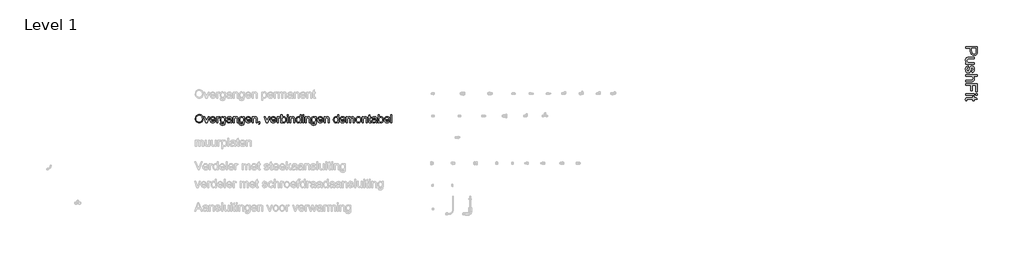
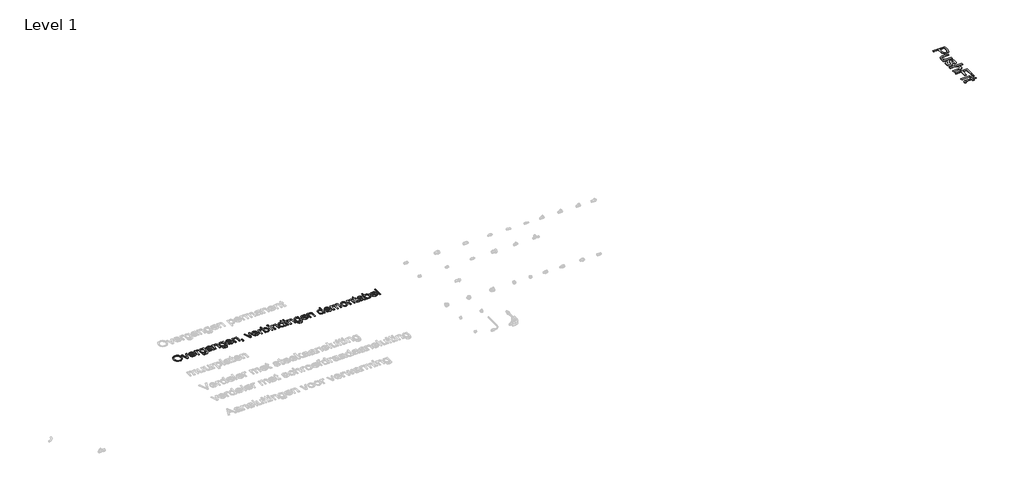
# One storey, part 9 of 9: 2 proxies.
"""IFC4 building model written with IfcOpenShell, lengths in millimetres."""

from ifc_helpers import new_model, si_unit, origin, origin_with_axes, place, context, project, spatial, polyline, outline, extrude, element, save

model = new_model("IFC4")

# Units and contexts
model_context = context("Model", 3, world=origin())
ifc_project = project(units=[si_unit("LENGTHUNIT", "METRE", prefix="MILLI")], contexts=[model_context])

# Site, building, storey
site = spatial("IfcSite", under=ifc_project)
building = spatial("IfcBuilding", under=site)
storey = spatial("IfcBuildingStorey", under=building, Name="Level 1", Elevation=0.0)

# Proxies
placement = place(None, origin())
element("IfcBuildingElementProxy", 1, Name="medium", ObjectType="medium", at=placement, inside=storey, context=model_context, shape_type="SweptSolid", body=[
    extrude(outline(polyline([(16543.598818, 6468.4931818), (16744.5114383, 6468.4931818), (16744.5114383, 6394.0338659), (16742.5984519, 6364.0146951), (16733.2051983, 6339.6118561), (16724.8788025, 6330.7397687), (16713.781029, 6323.7929303), (16700.6905613, 6319.30477), (16686.386083, 6317.8087165), (16662.7067453, 6321.8492871), (16642.9760076, 6333.9709989), (16635.2075661, 6343.678485), (16629.6586794, 6356.6386611), (16625.21957, 6392.3170833), (16625.21957, 6443.3791042), (16543.598818, 6443.3791042), (16543.598818, 6468.4931818)]), holes=[polyline([(16650.3336475, 6443.3791042), (16650.3336475, 6390.8455553), (16652.6390414, 6368.5764319), (16659.5552229, 6353.8611521), (16670.6529964, 6345.6573836), (16685.5031663, 6342.9227941), (16696.7848808, 6344.5353435), (16706.3007617, 6349.3729917), (16713.4621979, 6356.8348649), (16717.6805781, 6366.320089), (16719.3973607, 6391.4341665), (16719.3973607, 6443.3791042), (16650.3336475, 6443.3791042)])]), origin_with_axes(), (0.0, 0.0, 1.0), 5.0),
    extrude(outline(polyline([(16543.598818, 6192.2383288), (16568.9581502, 6192.2383288), (16556.4900162, 6201.3250141), (16547.5842063, 6211.9077529), (16542.2407203, 6223.986545), (16540.4595583, 6237.5613907), (16545.4627534, 6261.1794147), (16558.0197922, 6277.4643244), (16576.5119938, 6284.9445916), (16599.8602378, 6286.4161196), (16691.1440235, 6286.4161196), (16691.1440235, 6261.3020421), (16611.6815126, 6261.3020421), (16586.0769257, 6259.7814632), (16577.535932, 6256.1210373), (16571.0428148, 6249.8486493), (16565.5736358, 6231.1357185), (16571.1654422, 6210.1664447), (16577.768924, 6201.8093921), (16586.3957568, 6196.3095563), (16614.3793139, 6192.2383288), (16691.1440235, 6192.2383288), (16691.1440235, 6167.1242513), (16543.598818, 6167.1242513), (16543.598818, 6192.2383288)])), origin_with_axes(), (0.0, 0.0, 1.0), 5.0),
    extrude(outline(polyline([(16587.5484537, 6142.0101738), (16590.6877134, 6116.8960962), (16579.9455591, 6112.9352334), (16572.0483589, 6105.2710252), (16567.1923166, 6093.8544206), (16565.5736358, 6078.6363687), (16567.0574265, 6063.6022579), (16571.5087987, 6053.0317819), (16577.9589963, 6046.777788), (16585.4392636, 6044.6931233), (16591.8404103, 6046.7900507), (16596.7209781, 6053.0808328), (16603.8824143, 6078.9306743), (16616.1696729, 6116.7489434), (16622.3439591, 6126.3200067), (16630.5170707, 6133.2545823), (16650.7751059, 6138.8709141), (16669.4880367, 6134.3582283), (16683.7863836, 6122.0464442), (16691.2175999, 6106.0803656), (16694.2832832, 6084.4734297), (16689.3536645, 6053.9146987), (16683.5533917, 6042.4858313), (16676.0118108, 6034.4905293), (16653.4729072, 6025.8575652), (16650.3336475, 6050.9716427), (16658.236979, 6054.1415592), (16664.190536, 6060.4139472), (16669.1692057, 6082.5113924), (16667.9797206, 6096.9323666), (16664.4112652, 6106.5463494), (16659.2609173, 6111.9542148), (16653.3257544, 6113.7568365), (16646.0171654, 6110.7647297), (16640.47441, 6101.3960015), (16635.1278584, 6079.7645402), (16623.3065836, 6042.9027643), (16609.915679, 6025.7839888), (16600.0687042, 6021.1302815), (16588.0880139, 6019.5790458), (16575.7026534, 6021.4000617), (16564.0530569, 6026.8631093), (16554.052798, 6035.7597222), (16546.6154503, 6047.8814339), (16541.9985313, 6062.5231374), (16540.4595583, 6078.9797253), (16543.4271397, 6104.3022693), (16552.329884, 6122.7822082), (16567.0696893, 6135.1185177), (16587.5484537, 6142.0101738)])), origin_with_axes(), (0.0, 0.0, 1.0), 5.0),
    extrude(outline(polyline([(16543.598818, 5991.3257086), (16744.5114383, 5991.3257086), (16744.5114383, 5966.211631), (16670.6407337, 5966.211631), (16688.3726458, 5946.6280461), (16694.2832832, 5922.50725), (16692.6707338, 5907.3382491), (16687.8330856, 5894.3029637), (16680.1504832, 5884.039056), (16670.0030715, 5877.1841882), (16656.0603439, 5873.3214272), (16636.9917938, 5872.0338402), (16543.598818, 5872.0338402), (16543.598818, 5897.1479178), (16634.3920944, 5897.1479178), (16650.1129183, 5899.1467433), (16660.879598, 5905.1432198), (16667.0968038, 5914.8062536), (16669.1692057, 5927.8047507), (16663.5773993, 5948.381617), (16656.9923116, 5956.6344364), (16648.4206611, 5962.1158781), (16621.9822084, 5966.211631), (16543.598818, 5966.211631), (16543.598818, 5991.3257086)])), origin_with_axes(), (0.0, 0.0, 1.0), 5.0),
    extrude(outline(polyline([(16543.598818, 5834.3627239), (16744.5114383, 5834.3627239), (16744.5114383, 5699.3745572), (16719.3973607, 5699.3745572), (16719.3973607, 5809.2486464), (16659.7514266, 5809.2486464), (16659.7514266, 5715.0708556), (16634.6373491, 5715.0708556), (16634.6373491, 5809.2486464), (16543.598818, 5809.2486464), (16543.598818, 5834.3627239)])), origin_with_axes(), (0.0, 0.0, 1.0), 5.0),
    extrude(outline(polyline([(16543.598818, 5667.9819603), (16691.1440235, 5667.9819603), (16691.1440235, 5642.8678827), (16543.598818, 5642.8678827), (16543.598818, 5667.9819603)])), origin_with_axes(), (0.0, 0.0, 1.0), 5.0),
    extrude(outline(polyline([(16719.3973607, 5667.9819603), (16744.5114383, 5667.9819603), (16744.5114383, 5642.8678827), (16719.3973607, 5642.8678827), (16719.3973607, 5667.9819603)])), origin_with_axes(), (0.0, 0.0, 1.0), 5.0),
    extrude(outline(polyline([(16564.5435662, 5551.8293516), (16542.863054, 5548.690092), (16540.4595583, 5567.4765992), (16544.6288876, 5588.5194493), (16555.5672456, 5599.0163489), (16584.0658375, 5602.0575067), (16666.029946, 5602.0575067), (16666.029946, 5620.8930649), (16691.1440235, 5620.8930649), (16691.1440235, 5602.0575067), (16727.0002553, 5602.0575067), (16741.7645861, 5576.9434292), (16691.1440235, 5576.9434292), (16691.1440235, 5551.8293516), (16666.029946, 5551.8293516), (16666.029946, 5576.9434292), (16584.8016014, 5576.9434292), (16571.8521552, 5575.619054), (16567.265893, 5571.3270974), (16565.5736358, 5562.7677096), (16564.5435662, 5551.8293516)])), origin_with_axes(), (0.0, 0.0, 1.0), 5.0),
])
element("IfcBuildingElementProxy", 2, Name="small", ObjectType="small", at=placement, inside=storey, context=model_context, shape_type="SweptSolid", body=[
    extrude(outline(polyline([(3456.5985377, 5241.3149823), (3461.2853543, 5272.4144999), (3475.3458042, 5295.9430061), (3496.8141711, 5310.7502564), (3523.7247391, 5315.6860065), (3542.1715686, 5313.3683499), (3558.7127694, 5306.4153802), (3572.4470305, 5295.3163804), (3582.4730412, 5280.5606336), (3588.6019552, 5262.8606045), (3590.6449266, 5242.928758), (3588.4946563, 5222.7308102), (3582.0438455, 5204.7818477), (3571.6487266, 5190.0003491), (3557.665532, 5179.3047932), (3541.2659658, 5172.8153548), (3523.6217321, 5170.6522087), (3504.8916335, 5173.0428285), (3488.2560097, 5180.214688), (3474.5560842, 5191.5197017), (3464.6330805, 5206.3097842), (3458.6071734, 5223.3273922), (3456.5985377, 5241.3149823)]), holes=[polyline([(3474.178392, 5241.1433041), (3477.6935044, 5219.1427345), (3488.2388418, 5202.378352), (3504.0890376, 5191.7686352), (3523.5187252, 5188.232063), (3543.2316819, 5191.8029709), (3559.1076294, 5202.5156946), (3569.5757116, 5219.7951119), (3573.0650723, 5243.0661006), (3571.5714714, 5258.6287353), (3567.0906687, 5272.0797273), (3559.738547, 5283.0800121), (3549.6309892, 5291.2905251), (3537.4375405, 5296.4022454), (3523.827746, 5298.1061522), (3504.9173852, 5294.8228054), (3488.8397158, 5284.972765), (3477.8437229, 5267.4487061), (3474.178392, 5241.1433041)])]), origin_with_axes(), (0.0, 0.0, 1.0), 5.0),
    extrude(outline(polyline([(3637.9594562, 5172.8496905), (3601.6323355, 5276.1313344), (3620.2422593, 5276.1313344), (3642.2514128, 5214.2584879), (3648.8781939, 5193.4510822), (3655.3676322, 5213.0910757), (3677.5141284, 5276.1313344), (3696.1240522, 5276.1313344), (3660.243295, 5172.8496905), (3637.9594562, 5172.8496905)])), origin_with_axes(), (0.0, 0.0, 1.0), 5.0),
    extrude(outline(polyline([(3783.8173097, 5203.6144355), (3801.0538074, 5201.4169537), (3794.8433462, 5188.429493), (3784.9332184, 5178.7210871), (3771.5466057, 5172.6694283), (3754.90669, 5170.6522087), (3734.2795465, 5174.1329855), (3718.4078909, 5184.5753159), (3708.2874573, 5201.3010708), (3704.9139794, 5223.6321211), (3708.3217929, 5246.7142637), (3718.5452336, 5263.9765132), (3734.2022913, 5274.7407404), (3753.910956, 5278.3288161), (3773.005871, 5274.7493243), (3788.2637767, 5264.0108489), (3798.2683276, 5246.782935), (3801.6031779, 5223.7351281), (3801.5001709, 5218.996808), (3722.4938336, 5218.996808), (3725.5368309, 5205.837669), (3732.6056834, 5196.1635988), (3742.8076643, 5190.2149469), (3755.2500465, 5188.232063), (3772.4865442, 5191.9059778), (3783.8173097, 5203.6144355)]), holes=[polyline([(3722.4938336, 5236.5766622), (3784.0233236, 5236.5766622), (3776.9845148, 5252.5084052), (3766.7353224, 5258.6888227), (3753.8422847, 5260.7489619), (3741.9921925, 5259.1051425), (3732.1936556, 5254.1736843), (3725.3823204, 5246.48679), (3722.4938336, 5236.5766622)])]), origin_with_axes(), (0.0, 0.0, 1.0), 5.0),
    extrude(outline(polyline([(3819.1830322, 5172.8496905), (3819.1830322, 5276.1313344), (3834.5654046, 5276.1313344), (3834.5654046, 5260.8519688), (3845.4841423, 5274.9295865), (3856.4715512, 5278.3288161), (3874.1200768, 5272.903783), (3868.2486801, 5257.1437183), (3855.8878451, 5260.7489619), (3845.9476736, 5257.2810609), (3839.6127456, 5247.6670781), (3836.7628864, 5227.1343577), (3836.7628864, 5172.8496905), (3819.1830322, 5172.8496905)])), origin_with_axes(), (0.0, 0.0, 1.0), 5.0),
    extrude(outline(polyline([(3880.7125221, 5164.0597633), (3898.2923764, 5161.8622816), (3903.9920948, 5152.5916553), (3921.0569143, 5148.6773908), (3939.0487964, 5153.1066901), (3947.6327096, 5165.5361964), (3948.8344574, 5186.0345812), (3936.4564546, 5176.1459132), (3921.3659351, 5172.8496905), (3903.2410024, 5176.6866997), (3889.725631, 5188.1977273), (3881.317688, 5205.0737007), (3878.5150403, 5225.0055472), (3883.5452135, 5252.2508878), (3889.6998793, 5263.31126), (3898.1035303, 5271.5303569), (3908.4686055, 5276.6292013), (3920.5075438, 5278.3288161), (3936.1903533, 5274.483223), (3948.8344574, 5262.9464436), (3948.8344574, 5276.1313344), (3966.4143117, 5276.1313344), (3966.4143117, 5186.9616438), (3965.2125639, 5166.373128), (3961.6073203, 5152.814837), (3955.3968591, 5143.8231879), (3946.3794583, 5136.9345976), (3934.7525478, 5132.5568018), (3920.7135577, 5131.0975366), (3904.3569111, 5133.1533838), (3891.4767493, 5139.3209254), (3883.2147328, 5149.6173293), (3880.7125221, 5164.0597633)]), holes=[polyline([(3896.0948946, 5226.2072951), (3897.9704796, 5210.0824141), (3903.5972348, 5198.9962901), (3912.0566812, 5192.5712311), (3922.4303404, 5190.4295448), (3932.7267443, 5192.5583552), (3941.2291103, 5198.9447867), (3946.9331207, 5209.889276), (3948.8344574, 5225.6922603), (3946.8773252, 5240.9329982), (3941.0059286, 5251.9075312), (3932.3790958, 5258.5386042), (3922.1556551, 5260.7489619), (3912.1167686, 5258.5729399), (3903.7002417, 5252.0448739), (3897.9962314, 5241.2334352), (3896.0948946, 5226.2072951)])]), origin_with_axes(), (0.0, 0.0, 1.0), 5.0),
    extrude(outline(polyline([(4058.7085467, 5186.0345812), (4041.660895, 5174.1201096), (4022.8277894, 5170.6522087), (4008.1364219, 5172.7380996), (3997.2992315, 5178.9957723), (3990.616655, 5188.4981643), (3988.3891296, 5200.3182128), (3991.7540235, 5214.2241522), (4000.5954542, 5224.3188342), (4012.9047857, 5230.0872238), (4028.1154799, 5232.7310691), (4058.6055397, 5238.774144), (4058.7085467, 5242.6884084), (4057.4982149, 5250.5341051), (4053.8672196, 5255.6672852), (4045.7468377, 5259.4785427), (4034.4332401, 5260.7489619), (4016.6473719, 5257.3669001), (4008.1664656, 5245.3665894), (3990.5866113, 5247.5640712), (3998.1919585, 5264.7318976), (4013.5056596, 5274.7922439), (4036.6993932, 5278.3288161), (4058.0046658, 5275.2042717), (4070.0393121, 5267.358575), (4075.4300096, 5255.4269357), (4076.2884009, 5240.0445632), (4076.2884009, 5218.1727523), (4077.1811279, 5187.631189), (4080.6833645, 5172.8496905), (4063.1035102, 5172.8496905), (4058.7085467, 5186.0345812)]), holes=[polyline([(4058.7085467, 5221.1942897), (4030.3472974, 5215.8035922), (4015.2224423, 5212.953733), (4008.3724795, 5208.3184199), (4005.9689838, 5201.5542963), (4011.2051709, 5192.0433204), (4026.5703756, 5188.232063), (4044.3562438, 5192.4381804), (4055.8243518, 5202.6187015), (4058.6055397, 5216.2156201), (4058.7085467, 5221.1942897)])]), origin_with_axes(), (0.0, 0.0, 1.0), 5.0),
    extrude(outline(polyline([(4100.4607006, 5172.8496905), (4100.4607006, 5276.1313344), (4118.0405548, 5276.1313344), (4118.0405548, 5261.7103601), (4131.4829629, 5274.1742021), (4149.8353694, 5278.3288161), (4166.4366576, 5274.98109), (4177.767423, 5266.1911628), (4183.0379458, 5253.2637895), (4183.9650084, 5236.2676414), (4183.9650084, 5172.8496905), (4166.3851541, 5172.8496905), (4166.3851541, 5233.8984813), (4164.3593506, 5249.4525321), (4157.200367, 5257.6759209), (4145.131385, 5260.7489619), (4134.8349811, 5259.0235953), (4126.0579298, 5253.8474956), (4120.0448986, 5243.8472367), (4118.0405548, 5227.6493925), (4118.0405548, 5172.8496905), (4100.4607006, 5172.8496905)])), origin_with_axes(), (0.0, 0.0, 1.0), 5.0),
    extrude(outline(polyline([(4203.7423444, 5164.0597633), (4221.3221987, 5161.8622816), (4227.0219171, 5152.5916553), (4244.0867366, 5148.6773908), (4262.0786187, 5153.1066901), (4270.6625319, 5165.5361964), (4271.8642798, 5186.0345812), (4259.4862769, 5176.1459132), (4244.3957575, 5172.8496905), (4226.2708247, 5176.6866997), (4212.7554533, 5188.1977273), (4204.3475103, 5205.0737007), (4201.5448627, 5225.0055472), (4206.5750358, 5252.2508878), (4212.7297016, 5263.31126), (4221.1333526, 5271.5303569), (4231.4984278, 5276.6292013), (4243.5373661, 5278.3288161), (4259.2201756, 5274.483223), (4271.8642798, 5262.9464436), (4271.8642798, 5276.1313344), (4289.444134, 5276.1313344), (4289.444134, 5186.9616438), (4288.2423862, 5166.373128), (4284.6371426, 5152.814837), (4278.4266814, 5143.8231879), (4269.4092806, 5136.9345976), (4257.7823701, 5132.5568018), (4243.7433801, 5131.0975366), (4227.3867334, 5133.1533838), (4214.5065716, 5139.3209254), (4206.2445551, 5149.6173293), (4203.7423444, 5164.0597633)]), holes=[polyline([(4219.1247169, 5226.2072951), (4221.000302, 5210.0824141), (4226.6270571, 5198.9962901), (4235.0865036, 5192.5712311), (4245.4601627, 5190.4295448), (4255.7565666, 5192.5583552), (4264.2589326, 5198.9447867), (4269.962943, 5209.889276), (4271.8642798, 5225.6922603), (4269.9071475, 5240.9329982), (4264.0357509, 5251.9075312), (4255.4089181, 5258.5386042), (4245.1854775, 5260.7489619), (4235.146591, 5258.5729399), (4226.730064, 5252.0448739), (4221.0260537, 5241.2334352), (4219.1247169, 5226.2072951)])]), origin_with_axes(), (0.0, 0.0, 1.0), 5.0),
    extrude(outline(polyline([(4388.1248004, 5203.6144355), (4405.3612982, 5201.4169537), (4399.150837, 5188.429493), (4389.2407091, 5178.7210871), (4375.8540965, 5172.6694283), (4359.2141807, 5170.6522087), (4338.5870372, 5174.1329855), (4322.7153817, 5184.5753159), (4312.594948, 5201.3010708), (4309.2214701, 5223.6321211), (4312.6292836, 5246.7142637), (4322.8527243, 5263.9765132), (4338.509782, 5274.7407404), (4358.2184468, 5278.3288161), (4377.3133617, 5274.7493243), (4392.5712675, 5264.0108489), (4402.5758183, 5246.782935), (4405.9106686, 5223.7351281), (4405.8076617, 5218.996808), (4326.8013244, 5218.996808), (4329.8443216, 5205.837669), (4336.9131741, 5196.1635988), (4347.115155, 5190.2149469), (4359.5575372, 5188.232063), (4376.794035, 5191.9059778), (4388.1248004, 5203.6144355)]), holes=[polyline([(4326.8013244, 5236.5766622), (4388.3308143, 5236.5766622), (4381.2920055, 5252.5084052), (4371.0428131, 5258.6888227), (4358.1497755, 5260.7489619), (4346.2996833, 5259.1051425), (4336.5011463, 5254.1736843), (4329.6898112, 5246.48679), (4326.8013244, 5236.5766622)])]), origin_with_axes(), (0.0, 0.0, 1.0), 5.0),
    extrude(outline(polyline([(4423.4905229, 5172.8496905), (4423.4905229, 5276.1313344), (4441.0703772, 5276.1313344), (4441.0703772, 5261.7103601), (4454.5127853, 5274.1742021), (4472.8651917, 5278.3288161), (4489.4664799, 5274.98109), (4500.7972454, 5266.1911628), (4506.0677681, 5253.2637895), (4506.9948307, 5236.2676414), (4506.9948307, 5172.8496905), (4489.4149764, 5172.8496905), (4489.4149764, 5233.8984813), (4487.3891729, 5249.4525321), (4480.2301893, 5257.6759209), (4468.1612073, 5260.7489619), (4457.8648034, 5259.0235953), (4449.0877521, 5253.8474956), (4443.0747209, 5243.8472367), (4441.0703772, 5227.6493925), (4441.0703772, 5172.8496905), (4423.4905229, 5172.8496905)])), origin_with_axes(), (0.0, 0.0, 1.0), 5.0),
    extrude(outline(polyline([(4535.5620939, 5172.8496905), (4535.5620939, 5190.4295448), (4553.1419482, 5190.4295448), (4553.1419482, 5172.8496905), (4549.9830681, 5154.8749762), (4539.9570575, 5144.2824273), (4535.5620939, 5150.8748726), (4542.0171966, 5158.4630519), (4544.3176854, 5172.8496905), (4535.5620939, 5172.8496905)])), origin_with_axes(), (0.0, 0.0, 1.0), 5.0),
    extrude(outline(polyline([(4666.3809314, 5172.8496905), (4630.0538106, 5276.1313344), (4648.6637345, 5276.1313344), (4670.672888, 5214.2584879), (4677.299669, 5193.4510822), (4683.7891074, 5213.0910757), (4705.9356035, 5276.1313344), (4724.5455274, 5276.1313344), (4688.6647701, 5172.8496905), (4666.3809314, 5172.8496905)])), origin_with_axes(), (0.0, 0.0, 1.0), 5.0),
    extrude(outline(polyline([(4812.2387848, 5203.6144355), (4829.4752826, 5201.4169537), (4823.2648214, 5188.429493), (4813.3546936, 5178.7210871), (4799.9680809, 5172.6694283), (4783.3281651, 5170.6522087), (4762.7010216, 5174.1329855), (4746.8293661, 5184.5753159), (4736.7089324, 5201.3010708), (4733.3354545, 5223.6321211), (4736.7432681, 5246.7142637), (4746.9667087, 5263.9765132), (4762.6237664, 5274.7407404), (4782.3324312, 5278.3288161), (4801.4273461, 5274.7493243), (4816.6852519, 5264.0108489), (4826.6898027, 5246.782935), (4830.024653, 5223.7351281), (4829.9216461, 5218.996808), (4750.9153088, 5218.996808), (4753.958306, 5205.837669), (4761.0271586, 5196.1635988), (4771.2291394, 5190.2149469), (4783.6715216, 5188.232063), (4800.9080194, 5191.9059778), (4812.2387848, 5203.6144355)]), holes=[polyline([(4750.9153088, 5236.5766622), (4812.4447988, 5236.5766622), (4805.4059899, 5252.5084052), (4795.1567975, 5258.6888227), (4782.2637599, 5260.7489619), (4770.4136677, 5259.1051425), (4760.6151307, 5254.1736843), (4753.8037956, 5246.48679), (4750.9153088, 5236.5766622)])]), origin_with_axes(), (0.0, 0.0, 1.0), 5.0),
    extrude(outline(polyline([(4847.6045073, 5172.8496905), (4847.6045073, 5276.1313344), (4862.9868798, 5276.1313344), (4862.9868798, 5260.8519688), (4873.9056174, 5274.9295865), (4884.8930263, 5278.3288161), (4902.5415519, 5272.903783), (4896.6701553, 5257.1437183), (4884.3093202, 5260.7489619), (4874.3691487, 5257.2810609), (4868.0342208, 5247.6670781), (4865.1843616, 5227.1343577), (4865.1843616, 5172.8496905), (4847.6045073, 5172.8496905)])), origin_with_axes(), (0.0, 0.0, 1.0), 5.0),
    extrude(outline(polyline([(4931.1088151, 5172.8496905), (4913.5289608, 5172.8496905), (4913.5289608, 5313.4885247), (4931.1088151, 5313.4885247), (4931.1088151, 5261.332668), (4943.4181467, 5274.0797791), (4958.71468, 5278.3288161), (4976.32887, 5274.5003908), (4989.9944598, 5263.7361637), (4998.3895269, 5246.9975329), (5001.4282322, 5226.0356168), (4998.282228, 5202.567198), (4988.8442154, 5185.1075186), (4974.9940715, 5174.2660362), (4958.6116731, 5170.6522087), (4942.9803671, 5175.3132736), (4931.1088151, 5189.2964682), (4931.1088151, 5172.8496905)]), holes=[polyline([(4931.1088151, 5225.2115611), (4932.310563, 5210.5502373), (4935.9158065, 5200.6272337), (4945.1263454, 5191.3308556), (4957.1009044, 5188.232063), (4967.2470898, 5190.5153839), (4975.9168421, 5197.3653466), (4981.865494, 5208.7390317), (4983.8483779, 5224.5935194), (4981.9470412, 5240.6797727), (4976.2430308, 5251.9246991), (4967.8436717, 5258.5428962), (4957.8562887, 5260.7489619), (4947.7101033, 5258.4656409), (4939.0403509, 5251.6156782), (4933.0916991, 5240.4480071), (4931.1088151, 5225.2115611)])]), origin_with_axes(), (0.0, 0.0, 1.0), 5.0),
    extrude(outline(polyline([(5021.2055683, 5295.9086704), (5021.2055683, 5313.4885247), (5038.7854226, 5313.4885247), (5038.7854226, 5295.9086704), (5021.2055683, 5295.9086704)])), origin_with_axes(), (0.0, 0.0, 1.0), 5.0),
    extrude(outline(polyline([(5021.2055683, 5172.8496905), (5021.2055683, 5276.1313344), (5038.7854226, 5276.1313344), (5038.7854226, 5172.8496905), (5021.2055683, 5172.8496905)])), origin_with_axes(), (0.0, 0.0, 1.0), 5.0),
    extrude(outline(polyline([(5065.155204, 5172.8496905), (5065.155204, 5276.1313344), (5082.7350583, 5276.1313344), (5082.7350583, 5261.7103601), (5096.1774664, 5274.1742021), (5114.5298728, 5278.3288161), (5131.131161, 5274.98109), (5142.4619264, 5266.1911628), (5147.7324492, 5253.2637895), (5148.6595118, 5236.2676414), (5148.6595118, 5172.8496905), (5131.0796575, 5172.8496905), (5131.0796575, 5233.8984813), (5129.053854, 5249.4525321), (5121.8948704, 5257.6759209), (5109.8258884, 5260.7489619), (5099.5294845, 5259.0235953), (5090.7524332, 5253.8474956), (5084.739402, 5243.8472367), (5082.7350583, 5227.6493925), (5082.7350583, 5172.8496905), (5065.155204, 5172.8496905)])), origin_with_axes(), (0.0, 0.0, 1.0), 5.0),
    extrude(outline(polyline([(5236.5587832, 5172.8496905), (5236.5587832, 5189.4338108), (5224.9275808, 5175.3476092), (5208.8499113, 5170.6522087), (5197.4848102, 5172.3518235), (5187.0811074, 5177.450668), (5178.2740124, 5185.5925097), (5171.6987349, 5196.4211162), (5166.2393661, 5224.3875055), (5171.2695392, 5252.3710626), (5177.5529637, 5263.4700624), (5186.3428908, 5271.6333638), (5196.9740674, 5276.6549531), (5208.78124, 5278.3288161), (5224.9876681, 5273.5389926), (5236.5587832, 5261.0923184), (5236.5587832, 5313.4885247), (5254.1386374, 5313.4885247), (5254.1386374, 5172.8496905), (5236.5587832, 5172.8496905)]), holes=[polyline([(5183.8192203, 5224.4561768), (5185.8021043, 5208.5544775), (5191.7507562, 5197.2451719), (5200.3947568, 5190.4853402), (5210.463687, 5188.232063), (5220.5283252, 5190.3823332), (5228.9534361, 5196.833144), (5234.6574464, 5207.7046701), (5236.5587832, 5223.1170863), (5234.6231107, 5239.967308), (5228.8160934, 5251.6500138), (5220.1763848, 5258.4742249), (5209.7426383, 5260.7489619), (5199.5707011, 5258.5643559), (5191.2357214, 5252.0105382), (5185.6733456, 5240.752736), (5183.8192203, 5224.4561768)])]), origin_with_axes(), (0.0, 0.0, 1.0), 5.0),
    extrude(outline(polyline([(5280.5084189, 5295.9086704), (5280.5084189, 5313.4885247), (5298.0882731, 5313.4885247), (5298.0882731, 5295.9086704), (5280.5084189, 5295.9086704)])), origin_with_axes(), (0.0, 0.0, 1.0), 5.0),
    extrude(outline(polyline([(5280.5084189, 5172.8496905), (5280.5084189, 5276.1313344), (5298.0882731, 5276.1313344), (5298.0882731, 5172.8496905), (5280.5084189, 5172.8496905)])), origin_with_axes(), (0.0, 0.0, 1.0), 5.0),
    extrude(outline(polyline([(5324.4580545, 5172.8496905), (5324.4580545, 5276.1313344), (5342.0379088, 5276.1313344), (5342.0379088, 5261.7103601), (5355.4803169, 5274.1742021), (5373.8327234, 5278.3288161), (5390.4340116, 5274.98109), (5401.764777, 5266.1911628), (5407.0352997, 5253.2637895), (5407.9623624, 5236.2676414), (5407.9623624, 5172.8496905), (5390.3825081, 5172.8496905), (5390.3825081, 5233.8984813), (5388.3567046, 5249.4525321), (5381.1977209, 5257.6759209), (5369.1287389, 5260.7489619), (5358.832335, 5259.0235953), (5350.0552838, 5253.8474956), (5344.0422526, 5243.8472367), (5342.0379088, 5227.6493925), (5342.0379088, 5172.8496905), (5324.4580545, 5172.8496905)])), origin_with_axes(), (0.0, 0.0, 1.0), 5.0),
    extrude(outline(polyline([(5427.7396984, 5164.0597633), (5445.3195527, 5161.8622816), (5451.0192711, 5152.5916553), (5468.0840906, 5148.6773908), (5486.0759727, 5153.1066901), (5494.6598859, 5165.5361964), (5495.8616337, 5186.0345812), (5483.4836309, 5176.1459132), (5468.3931114, 5172.8496905), (5450.2681787, 5176.6866997), (5436.7528073, 5188.1977273), (5428.3448643, 5205.0737007), (5425.5422166, 5225.0055472), (5430.5723898, 5252.2508878), (5436.7270556, 5263.31126), (5445.1307066, 5271.5303569), (5455.4957818, 5276.6292013), (5467.5347201, 5278.3288161), (5483.2175296, 5274.483223), (5495.8616337, 5262.9464436), (5495.8616337, 5276.1313344), (5513.441488, 5276.1313344), (5513.441488, 5186.9616438), (5512.2397402, 5166.373128), (5508.6344966, 5152.814837), (5502.4240354, 5143.8231879), (5493.4066346, 5136.9345976), (5481.7797241, 5132.5568018), (5467.740734, 5131.0975366), (5451.3840874, 5133.1533838), (5438.5039256, 5139.3209254), (5430.2419091, 5149.6173293), (5427.7396984, 5164.0597633)]), holes=[polyline([(5443.1220709, 5226.2072951), (5444.997656, 5210.0824141), (5450.6244111, 5198.9962901), (5459.0838575, 5192.5712311), (5469.4575167, 5190.4295448), (5479.7539206, 5192.5583552), (5488.2562866, 5198.9447867), (5493.960297, 5209.889276), (5495.8616337, 5225.6922603), (5493.9045015, 5240.9329982), (5488.0331049, 5251.9075312), (5479.4062721, 5258.5386042), (5469.1828315, 5260.7489619), (5459.1439449, 5258.5729399), (5450.727418, 5252.0448739), (5445.0234077, 5241.2334352), (5443.1220709, 5226.2072951)])]), origin_with_axes(), (0.0, 0.0, 1.0), 5.0),
    extrude(outline(polyline([(5612.1221544, 5203.6144355), (5629.3586522, 5201.4169537), (5623.1481909, 5188.429493), (5613.2380631, 5178.7210871), (5599.8514505, 5172.6694283), (5583.2115347, 5170.6522087), (5562.5843912, 5174.1329855), (5546.7127357, 5184.5753159), (5536.592302, 5201.3010708), (5533.2188241, 5223.6321211), (5536.6266376, 5246.7142637), (5546.8500783, 5263.9765132), (5562.507136, 5274.7407404), (5582.2158007, 5278.3288161), (5601.3107157, 5274.7493243), (5616.5686215, 5264.0108489), (5626.5731723, 5246.782935), (5629.9080226, 5223.7351281), (5629.8050156, 5218.996808), (5550.7986784, 5218.996808), (5553.8416756, 5205.837669), (5560.9105281, 5196.1635988), (5571.112509, 5190.2149469), (5583.5548912, 5188.232063), (5600.791389, 5191.9059778), (5612.1221544, 5203.6144355)]), holes=[polyline([(5550.7986784, 5236.5766622), (5612.3281683, 5236.5766622), (5605.2893595, 5252.5084052), (5595.0401671, 5258.6888227), (5582.1471294, 5260.7489619), (5570.2970372, 5259.1051425), (5560.4985003, 5254.1736843), (5553.6871652, 5246.48679), (5550.7986784, 5236.5766622)])]), origin_with_axes(), (0.0, 0.0, 1.0), 5.0),
    extrude(outline(polyline([(5647.4878769, 5172.8496905), (5647.4878769, 5276.1313344), (5665.0677311, 5276.1313344), (5665.0677311, 5261.7103601), (5678.5101393, 5274.1742021), (5696.8625457, 5278.3288161), (5713.4638339, 5274.98109), (5724.7945993, 5266.1911628), (5730.0651221, 5253.2637895), (5730.9921847, 5236.2676414), (5730.9921847, 5172.8496905), (5713.4123304, 5172.8496905), (5713.4123304, 5233.8984813), (5711.3865269, 5249.4525321), (5704.2275433, 5257.6759209), (5692.1585613, 5260.7489619), (5681.8621574, 5259.0235953), (5673.0851061, 5253.8474956), (5667.0720749, 5243.8472367), (5665.0677311, 5227.6493925), (5665.0677311, 5172.8496905), (5647.4878769, 5172.8496905)])), origin_with_axes(), (0.0, 0.0, 1.0), 5.0),
    extrude(outline(polyline([(5873.8285007, 5172.8496905), (5873.8285007, 5189.4338108), (5862.1972983, 5175.3476092), (5846.1196288, 5170.6522087), (5834.7545277, 5172.3518235), (5824.3508249, 5177.450668), (5815.5437299, 5185.5925097), (5808.9684524, 5196.4211162), (5803.5090836, 5224.3875055), (5808.5392567, 5252.3710626), (5814.8226812, 5263.4700624), (5823.6126083, 5271.6333638), (5834.2437849, 5276.6549531), (5846.0509575, 5278.3288161), (5862.2573857, 5273.5389926), (5873.8285007, 5261.0923184), (5873.8285007, 5313.4885247), (5891.408355, 5313.4885247), (5891.408355, 5172.8496905), (5873.8285007, 5172.8496905)]), holes=[polyline([(5821.0889379, 5224.4561768), (5823.0718218, 5208.5544775), (5829.0204737, 5197.2451719), (5837.6644743, 5190.4853402), (5847.7334045, 5188.232063), (5857.7980427, 5190.3823332), (5866.2231536, 5196.833144), (5871.9271639, 5207.7046701), (5873.8285007, 5223.1170863), (5871.8928282, 5239.967308), (5866.085811, 5251.6500138), (5857.4461023, 5258.4742249), (5847.0123558, 5260.7489619), (5836.8404186, 5258.5643559), (5828.5054389, 5252.0105382), (5822.9430631, 5240.752736), (5821.0889379, 5224.4561768)])]), origin_with_axes(), (0.0, 0.0, 1.0), 5.0),
    extrude(outline(polyline([(5990.0890213, 5203.6144355), (6007.3255191, 5201.4169537), (6001.1150579, 5188.429493), (5991.2049301, 5178.7210871), (5977.8183174, 5172.6694283), (5961.1784016, 5170.6522087), (5940.5512581, 5174.1329855), (5924.6796026, 5184.5753159), (5914.5591689, 5201.3010708), (5911.185691, 5223.6321211), (5914.5935046, 5246.7142637), (5924.8169452, 5263.9765132), (5940.4740029, 5274.7407404), (5960.1826677, 5278.3288161), (5979.2775826, 5274.7493243), (5994.5354884, 5264.0108489), (6004.5400392, 5246.782935), (6007.8748895, 5223.7351281), (6007.7718826, 5218.996808), (5928.7655453, 5218.996808), (5931.8085425, 5205.837669), (5938.8773951, 5196.1635988), (5949.0793759, 5190.2149469), (5961.5217581, 5188.232063), (5978.7582559, 5191.9059778), (5990.0890213, 5203.6144355)]), holes=[polyline([(5928.7655453, 5236.5766622), (5990.2950353, 5236.5766622), (5983.2562264, 5252.5084052), (5973.007034, 5258.6888227), (5960.1139964, 5260.7489619), (5948.2639042, 5259.1051425), (5938.4653672, 5254.1736843), (5931.6540321, 5246.48679), (5928.7655453, 5236.5766622)])]), origin_with_axes(), (0.0, 0.0, 1.0), 5.0),
    extrude(outline(polyline([(6025.4547438, 5172.8496905), (6025.4547438, 5276.1313344), (6043.0345981, 5276.1313344), (6043.0345981, 5259.1351862), (6055.1207479, 5273.0582934), (6072.32291, 5278.3288161), (6089.9370999, 5272.9552865), (6099.619754, 5257.8991027), (6113.3368474, 5273.2213878), (6130.6591842, 5278.3288161), (6143.8741186, 5276.2042976), (6153.6469039, 5269.830742), (6159.6856868, 5259.0364712), (6161.6986145, 5243.6498067), (6161.6986145, 5172.8496905), (6144.1187602, 5172.8496905), (6144.1187602, 5236.0959631), (6142.4878167, 5250.7744547), (6136.5820844, 5258.0021096), (6126.5389059, 5260.7489619), (6117.0150542, 5258.9892596), (6109.2509047, 5253.710153), (6104.0876809, 5244.5511176), (6102.3666063, 5231.1516291), (6102.3666063, 5172.8496905), (6084.786752, 5172.8496905), (6084.786752, 5238.0530953), (6080.7179771, 5255.0835791), (6075.3487394, 5259.3326162), (6067.378576, 5260.7489619), (6054.3653635, 5256.97204), (6045.712779, 5245.9159598), (6043.0345981, 5224.9368759), (6043.0345981, 5172.8496905), (6025.4547438, 5172.8496905)])), origin_with_axes(), (0.0, 0.0, 1.0), 5.0),
    extrude(outline(polyline([(6183.6734323, 5224.4905124), (6187.4761059, 5249.3924447), (6198.8841265, 5266.8950437), (6212.978912, 5275.470373), (6229.8548854, 5278.3288161), (6248.3231747, 5274.8480393), (6263.0746296, 5264.4057089), (6272.7444078, 5247.8258805), (6275.9676672, 5225.9326098), (6274.5427377, 5208.1724934), (6270.2679489, 5194.6528301), (6263.2677676, 5184.5281044), (6253.6666607, 5176.952801), (6242.262932, 5172.2273568), (6229.8548854, 5170.6522087), (6211.1634144, 5174.1201096), (6196.4291273, 5184.5238125), (6186.8623561, 5201.4512893), (6183.6734323, 5224.4905124)]), holes=[polyline([(6201.2532866, 5224.5248481), (6203.287674, 5208.6145649), (6209.3908363, 5197.2795075), (6218.5756235, 5190.4939241), (6229.8548854, 5188.232063), (6241.0826439, 5190.5068), (6250.2502632, 5197.331011), (6256.3534255, 5208.8162869), (6258.387813, 5225.0742185), (6256.3405497, 5240.5209704), (6250.1987598, 5251.7015173), (6241.0182646, 5258.4871007), (6229.8548854, 5260.7489619), (6218.5756235, 5258.4956846), (6209.3908363, 5251.735853), (6203.287674, 5240.4265473), (6201.2532866, 5224.5248481)])]), origin_with_axes(), (0.0, 0.0, 1.0), 5.0),
    extrude(outline(polyline([(6295.7450033, 5172.8496905), (6295.7450033, 5276.1313344), (6313.3248576, 5276.1313344), (6313.3248576, 5261.7103601), (6326.7672657, 5274.1742021), (6345.1196722, 5278.3288161), (6361.7209603, 5274.98109), (6373.0517258, 5266.1911628), (6378.3222485, 5253.2637895), (6379.2493111, 5236.2676414), (6379.2493111, 5172.8496905), (6361.6694568, 5172.8496905), (6361.6694568, 5233.8984813), (6359.6436533, 5249.4525321), (6352.4846697, 5257.6759209), (6340.4156877, 5260.7489619), (6330.1192838, 5259.0235953), (6321.3422325, 5253.8474956), (6315.3292013, 5243.8472367), (6313.3248576, 5227.6493925), (6313.3248576, 5172.8496905), (6295.7450033, 5172.8496905)])), origin_with_axes(), (0.0, 0.0, 1.0), 5.0),
    extrude(outline(polyline([(6440.7788011, 5187.5110143), (6442.9762829, 5172.3346557), (6429.8257278, 5170.6522087), (6415.0957327, 5173.5707392), (6407.747903, 5181.2275898), (6405.6190925, 5201.1766041), (6405.6190925, 5258.5514801), (6392.4342018, 5258.5514801), (6392.4342018, 5276.1313344), (6405.6190925, 5276.1313344), (6405.6190925, 5301.2306966), (6423.1989468, 5311.5657281), (6423.1989468, 5276.1313344), (6440.7788011, 5276.1313344), (6440.7788011, 5258.5514801), (6423.1989468, 5258.5514801), (6423.1989468, 5201.6916389), (6424.1260094, 5192.6270265), (6427.1303791, 5189.416643), (6433.1219505, 5188.232063), (6440.7788011, 5187.5110143)])), origin_with_axes(), (0.0, 0.0, 1.0), 5.0),
    extrude(outline(polyline([(6524.2831089, 5186.0345812), (6507.2354572, 5174.1201096), (6488.4023516, 5170.6522087), (6473.7109842, 5172.7380996), (6462.8737937, 5178.9957723), (6456.1912173, 5188.4981643), (6453.9636918, 5200.3182128), (6457.3285858, 5214.2241522), (6466.1700164, 5224.3188342), (6478.479348, 5230.0872238), (6493.6900422, 5232.7310691), (6524.1801019, 5238.774144), (6524.2831089, 5242.6884084), (6523.0727771, 5250.5341051), (6519.4417818, 5255.6672852), (6511.3213999, 5259.4785427), (6500.0078023, 5260.7489619), (6482.2219341, 5257.3669001), (6473.7410279, 5245.3665894), (6456.1611736, 5247.5640712), (6463.7665207, 5264.7318976), (6479.0802219, 5274.7922439), (6502.2739554, 5278.3288161), (6523.579228, 5275.2042717), (6535.6138743, 5267.358575), (6541.0045719, 5255.4269357), (6541.8629632, 5240.0445632), (6541.8629632, 5218.1727523), (6542.7556901, 5187.631189), (6546.2579267, 5172.8496905), (6528.6780725, 5172.8496905), (6524.2831089, 5186.0345812)]), holes=[polyline([(6524.2831089, 5221.1942897), (6495.9218596, 5215.8035922), (6480.7970045, 5212.953733), (6473.9470418, 5208.3184199), (6471.5435461, 5201.5542963), (6476.7797331, 5192.0433204), (6492.1449378, 5188.232063), (6509.930806, 5192.4381804), (6521.3989141, 5202.6187015), (6524.1801019, 5216.2156201), (6524.2831089, 5221.1942897)])]), origin_with_axes(), (0.0, 0.0, 1.0), 5.0),
    extrude(outline(polyline([(6583.6151171, 5172.8496905), (6566.0352628, 5172.8496905), (6566.0352628, 5313.4885247), (6583.6151171, 5313.4885247), (6583.6151171, 5261.332668), (6595.9244486, 5274.0797791), (6611.220982, 5278.3288161), (6628.8351719, 5274.5003908), (6642.5007618, 5263.7361637), (6650.8958289, 5246.9975329), (6653.9345342, 5226.0356168), (6650.78853, 5202.567198), (6641.3505174, 5185.1075186), (6627.5003734, 5174.2660362), (6611.117975, 5170.6522087), (6595.4866691, 5175.3132736), (6583.6151171, 5189.2964682), (6583.6151171, 5172.8496905)]), holes=[polyline([(6583.6151171, 5225.2115611), (6584.8168649, 5210.5502373), (6588.4221085, 5200.6272337), (6597.6326474, 5191.3308556), (6609.6072063, 5188.232063), (6619.7533917, 5190.5153839), (6628.4231441, 5197.3653466), (6634.371796, 5208.7390317), (6636.3546799, 5224.5935194), (6634.4533431, 5240.6797727), (6628.7493328, 5251.9246991), (6620.3499737, 5258.5428962), (6610.3625907, 5260.7489619), (6600.2164052, 5258.4656409), (6591.5466529, 5251.6156782), (6585.598001, 5240.4480071), (6583.6151171, 5225.2115611)])]), origin_with_axes(), (0.0, 0.0, 1.0), 5.0),
    extrude(outline(polyline([(6746.0227552, 5203.6144355), (6763.259253, 5201.4169537), (6757.0487917, 5188.429493), (6747.1386639, 5178.7210871), (6733.7520513, 5172.6694283), (6717.1121355, 5170.6522087), (6696.484992, 5174.1329855), (6680.6133365, 5184.5753159), (6670.4929028, 5201.3010708), (6667.1194249, 5223.6321211), (6670.5272384, 5246.7142637), (6680.7506791, 5263.9765132), (6696.4077368, 5274.7407404), (6716.1164016, 5278.3288161), (6735.2113165, 5274.7493243), (6750.4692223, 5264.0108489), (6760.4737731, 5246.782935), (6763.8086234, 5223.7351281), (6763.7056165, 5218.996808), (6684.6992792, 5218.996808), (6687.7422764, 5205.837669), (6694.8111289, 5196.1635988), (6705.0131098, 5190.2149469), (6717.455492, 5188.232063), (6734.6919898, 5191.9059778), (6746.0227552, 5203.6144355)]), holes=[polyline([(6684.6992792, 5236.5766622), (6746.2287691, 5236.5766622), (6739.1899603, 5252.5084052), (6728.9407679, 5258.6888227), (6716.0477303, 5260.7489619), (6704.197638, 5259.1051425), (6694.3991011, 5254.1736843), (6687.587766, 5246.48679), (6684.6992792, 5236.5766622)])]), origin_with_axes(), (0.0, 0.0, 1.0), 5.0),
    extrude(outline(polyline([(6781.3884777, 5172.8496905), (6781.3884777, 5313.4885247), (6798.968332, 5313.4885247), (6798.968332, 5172.8496905), (6781.3884777, 5172.8496905)])), origin_with_axes(), (0.0, 0.0, 1.0), 5.0),
])

save(model, "model.ifc")
